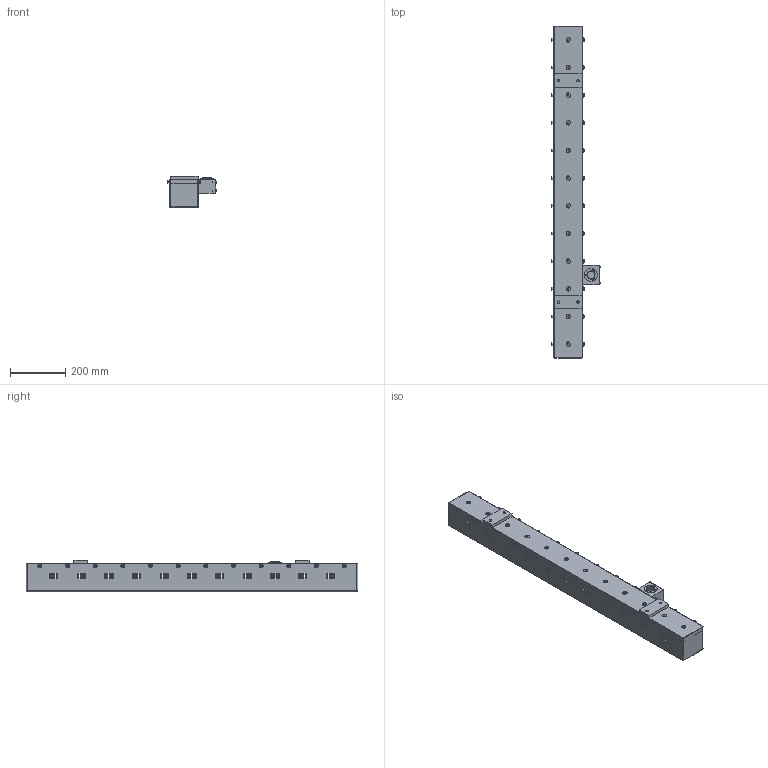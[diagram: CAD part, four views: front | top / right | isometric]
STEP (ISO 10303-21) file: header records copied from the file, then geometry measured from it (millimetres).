
FILE_DESCRIPTION(/* description */ (''),/* implementation_level */ '2;1');
FILE_NAME(/* name */ 'SER-104Wx102Hx1200L-H.step',/* time_stamp */ '2022-12-16T18:23:00+09:00',/* author */ (''),/* organization */ (''),/* preprocessor_version */ 'ST-DEVELOPER v19.2',/* originating_system */ 'Autodesk Translation Framework v11.17.0.187',/* authorisation */ '');
FILE_SCHEMA (('AUTOMOTIVE_DESIGN { 1 0 10303 214 3 1 1 }'));
Length unit declared in the file: millimetre
Products named in the file (9): SER-104Wx102Hx1200L-H; CASE; TopPlate; BOX-SFB8-30; CAP_BOLT_M6(L=16); CAP_BOLT_M6(L=16) v1(ミラー); ConectorBox; BKJ4-10; BFBJ3-8
Assembly tree (46 placements, depth 3):
  SER-104Wx102Hx1200L-H
    CASE
    TopPlate
      BOX-SFB8-30  x12
      CAP_BOLT_M6(L=16)  x12
      CAP_BOLT_M6(L=16) v1(ミラー)  x12
    ConectorBox
      BKJ4-10  x4
      BFBJ3-8  x3
Bounding box: 176.85 x 1200 x 114 mm (x, y, z)
Volume: 3020896.6 mm3; surface area: 1132609.7 mm2
Topology: 72 solids, 72 shells, 1384 faces, 3367 edges, 2185 vertices
Faces by surface type: plane 866, cylinder 399, cone 96, sphere 12, torus 11
Full cylindrical faces by diameter (mm): 2.529 x6, 2.693 x3, 3 x3, 3.57 x4, 4 x4, 5 x4, 5.035 x24, 6 x27, 6.5 x48, 8 x12, 8.526 x16, 10 x24, 14 x24, 15.73 x12, 26 x2, 30 x1, 46 x1
Entity records: 22915 total; most frequent: DIRECTION 3928, CARTESIAN_POINT 3897, ORIENTED_EDGE 3740, EDGE_CURVE 1870, AXIS2_PLACEMENT_3D 1311, LINE 1306, VECTOR 1306, VERTEX_POINT 1240
